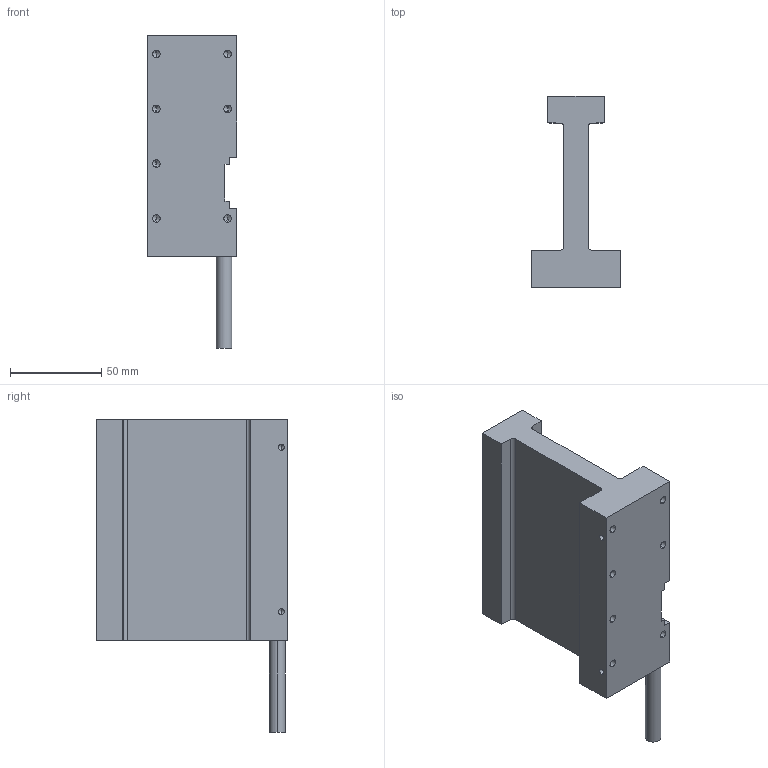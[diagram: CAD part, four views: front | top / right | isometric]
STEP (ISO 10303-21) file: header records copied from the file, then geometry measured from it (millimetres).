
FILE_DESCRIPTION (( 'STEP AP214' ), '1' );
FILE_NAME ('JKA52.STEP', '2025-09-05T08:48:31', ( '' ), ( '' ), 'SwSTEP 2.0', 'SolidWorks 2016', '' );
FILE_SCHEMA (( 'AUTOMOTIVE_DESIGN' ));
Length unit declared in the file: millimetre
Products named in the file (1): JKA52
Bounding box: 49 x 104.8 x 171 mm (x, y, z)
Volume: 285328.2 mm3; surface area: 48939 mm2
Topology: 1 solids, 1 shells, 93 faces, 245 edges, 141 vertices
Faces by surface type: cylinder 38, plane 29, cone 26
Entity records: 3023 total; most frequent: CARTESIAN_POINT 488, DIRECTION 481, ORIENTED_EDGE 438, EDGE_CURVE 219, AXIS2_PLACEMENT_3D 170, VERTEX_POINT 141, VECTOR 141, LINE 141
